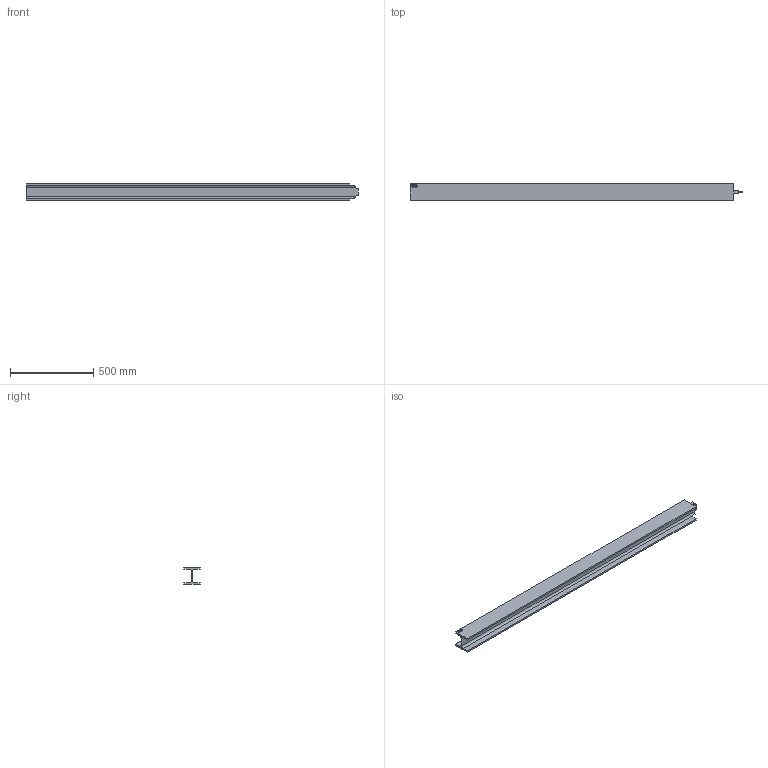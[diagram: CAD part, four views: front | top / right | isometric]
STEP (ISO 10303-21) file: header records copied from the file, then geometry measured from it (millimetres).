
FILE_DESCRIPTION (( 'STEP AP214' ), '1' );
FILE_NAME ('CCJ029-REP.026 - POUTRE INTERMEDIAIRE B4-B5.STEP', '2025-02-13T08:03:29', ( '' ), ( '' ), 'SwSTEP 2.0', 'SolidWorks 2021', '' );
FILE_SCHEMA (( 'AUTOMOTIVE_DESIGN' ));
Length unit declared in the file: millimetre
Products named in the file (1): CCJ029-REP.026 - POUTRE INTERMEDIAIRE B4-B5
Bounding box: 1998.5 x 100 x 100 mm (x, y, z)
Volume: 5095136.2 mm3; surface area: 1119352.7 mm2
Topology: 1 solids, 1 shells, 62 faces, 165 edges, 110 vertices
Faces by surface type: plane 32, bspline 24, cylinder 6
Entity records: 3599 total; most frequent: CARTESIAN_POINT 2178, ORIENTED_EDGE 330, DIRECTION 203, EDGE_CURVE 165, VERTEX_POINT 110, VECTOR 101, LINE 101, EDGE_LOOP 67
